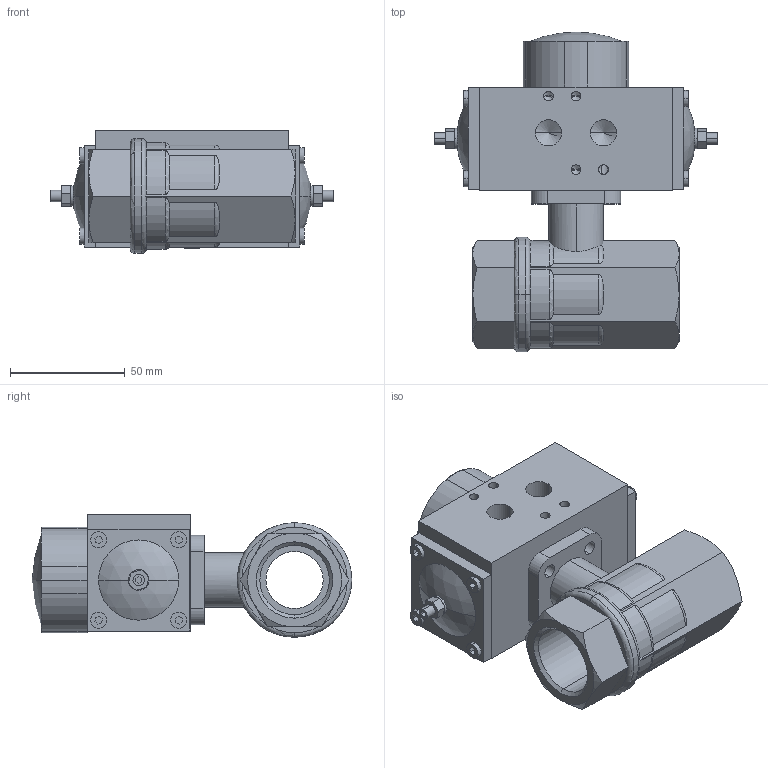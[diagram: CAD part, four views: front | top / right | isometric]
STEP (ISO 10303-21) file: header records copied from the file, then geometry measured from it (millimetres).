
FILE_DESCRIPTION (( 'STEP AP214' ), '1' );
FILE_NAME ('A25-DN25-G1+AP0.step', '2011-03-03T09:47:12', ( '' ), ( '' ), 'SwSTEP 2.0', 'SolidWorks 2011', '' );
FILE_SCHEMA (( 'AUTOMOTIVE_DESIGN' ));
Length unit declared in the file: millimetre
Products named in the file (3): AP0_Default<As Machined>; Ballvalve A25-DN25 G1; A25-DN25-G1+AP0
Assembly tree (2 placements, depth 2):
  A25-DN25-G1+AP0
    AP0_Default<As Machined>
    Ballvalve A25-DN25 G1
Bounding box: 123.81 x 139.49 x 53.5 mm (x, y, z)
Volume: 403427.6 mm3; surface area: 75831.8 mm2
Topology: 6 solids, 6 shells, 382 faces, 937 edges, 587 vertices
Faces by surface type: plane 209, cylinder 104, cone 45, torus 18, sphere 6
Entity records: 12688 total; most frequent: CARTESIAN_POINT 2634, DIRECTION 1880, ORIENTED_EDGE 1822, EDGE_CURVE 911, AXIS2_PLACEMENT_3D 666, VERTEX_POINT 587, LINE 548, VECTOR 548
